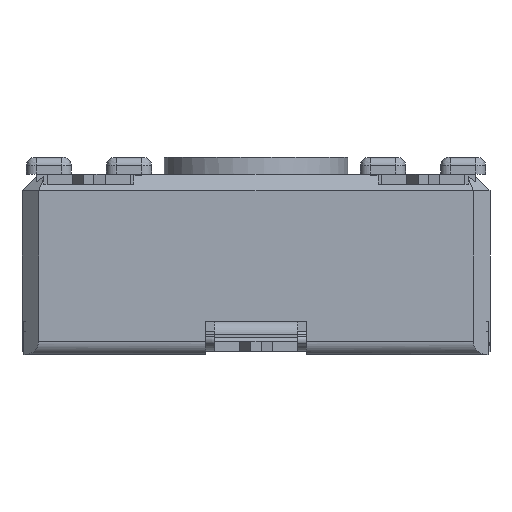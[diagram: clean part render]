
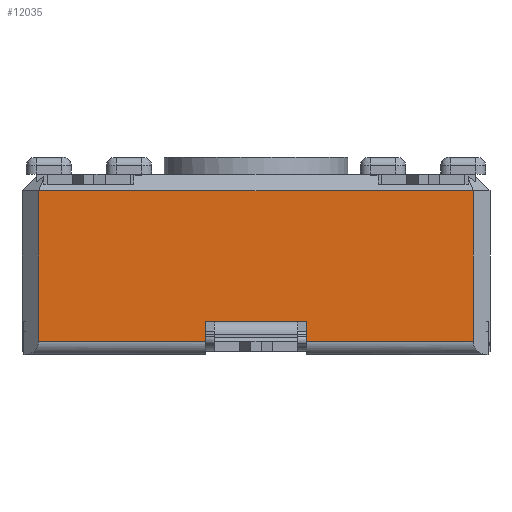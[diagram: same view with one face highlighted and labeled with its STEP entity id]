
A CAD part, front view. The second image highlights one B-rep face of the part: STEP entity #12035.
In plain terms, the highlighted planar face has unit normal (0, -1, 0).
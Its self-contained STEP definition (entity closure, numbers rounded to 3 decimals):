
#793=FACE_OUTER_BOUND('',#1399,.T.);
#1399=EDGE_LOOP('',(#10129,#10130,#10131,#10132,#10133,#10134,#10135,#10136,
#10137,#10138));
#1649=LINE('',#17045,#2904);
#1809=LINE('',#17422,#3064);
#2312=LINE('',#18833,#3567);
#2320=LINE('',#18850,#3575);
#2336=LINE('',#18890,#3591);
#2337=LINE('',#18895,#3592);
#2607=LINE('',#19669,#3862);
#2617=LINE('',#19687,#3872);
#2634=LINE('',#19731,#3889);
#2638=LINE('',#19737,#3893);
#2904=VECTOR('',#13684,10.);
#3064=VECTOR('',#14004,10.);
#3567=VECTOR('',#15177,10.);
#3575=VECTOR('',#15189,10.);
#3591=VECTOR('',#15225,10.);
#3592=VECTOR('',#15232,10.);
#3862=VECTOR('',#15946,10.);
#3872=VECTOR('',#15966,10.);
#3889=VECTOR('',#16007,10.);
#3893=VECTOR('',#16015,10.);
#4567=VERTEX_POINT('',#17043);
#4568=VERTEX_POINT('',#17044);
#4705=VERTEX_POINT('',#17421);
#5133=VERTEX_POINT('',#18830);
#5134=VERTEX_POINT('',#18832);
#5141=VERTEX_POINT('',#18848);
#5155=VERTEX_POINT('',#18889);
#5156=VERTEX_POINT('',#18893);
#5406=VERTEX_POINT('',#19668);
#5414=VERTEX_POINT('',#19729);
#5761=EDGE_CURVE('',#4567,#4568,#1649,.T.);
#5955=EDGE_CURVE('',#4705,#4567,#1809,.T.);
#6599=EDGE_CURVE('',#5133,#5134,#2312,.T.);
#6608=EDGE_CURVE('',#5133,#5141,#2320,.T.);
#6628=EDGE_CURVE('',#4705,#5155,#2336,.T.);
#6631=EDGE_CURVE('',#5155,#5156,#2337,.T.);
#7008=EDGE_CURVE('',#5406,#5134,#2607,.T.);
#7018=EDGE_CURVE('',#4568,#5406,#2617,.T.);
#7036=EDGE_CURVE('',#5414,#5141,#2634,.T.);
#7040=EDGE_CURVE('',#5156,#5414,#2638,.T.);
#10129=ORIENTED_EDGE('',*,*,#6599,.F.);
#10130=ORIENTED_EDGE('',*,*,#6608,.T.);
#10131=ORIENTED_EDGE('',*,*,#7036,.F.);
#10132=ORIENTED_EDGE('',*,*,#7040,.F.);
#10133=ORIENTED_EDGE('',*,*,#6631,.F.);
#10134=ORIENTED_EDGE('',*,*,#6628,.F.);
#10135=ORIENTED_EDGE('',*,*,#5955,.T.);
#10136=ORIENTED_EDGE('',*,*,#5761,.T.);
#10137=ORIENTED_EDGE('',*,*,#7018,.T.);
#10138=ORIENTED_EDGE('',*,*,#7008,.T.);
#10884=PLANE('',#13003);
#12035=ADVANCED_FACE('',(#793),#10884,.T.);
#13003=AXIS2_PLACEMENT_3D('',#19736,#16013,#16014);
#13684=DIRECTION('',(1.,0.,0.));
#14004=DIRECTION('',(1.,0.,0.));
#15177=DIRECTION('',(-1.,0.,0.));
#15189=DIRECTION('',(0.,0.,1.));
#15225=DIRECTION('',(0.,0.,-1.));
#15232=DIRECTION('',(-1.,0.,0.));
#15946=DIRECTION('',(0.,0.,-1.));
#15966=DIRECTION('',(1.,0.,0.));
#16007=DIRECTION('',(1.,0.,0.));
#16013=DIRECTION('center_axis',(0.,-1.,0.));
#16014=DIRECTION('ref_axis',(1.,0.,0.));
#16015=DIRECTION('',(0.,0.,1.));
#17043=CARTESIAN_POINT('',(-11.405,0.3,0.));
#17044=CARTESIAN_POINT('',(-8.905,0.3,0.));
#17045=CARTESIAN_POINT('',(-16.655,0.3,0.));
#17421=CARTESIAN_POINT('',(-11.655,0.3,0.));
#17422=CARTESIAN_POINT('',(-16.655,0.3,0.));
#18830=CARTESIAN_POINT('',(-3.655,0.3,-0.6));
#18832=CARTESIAN_POINT('',(-8.655,0.3,-0.6));
#18833=CARTESIAN_POINT('',(-11.325,0.3,-0.6));
#18848=CARTESIAN_POINT('',(-3.655,0.3,3.9));
#18850=CARTESIAN_POINT('',(-3.655,0.3,0.));
#18889=CARTESIAN_POINT('',(-11.655,0.3,-0.6));
#18890=CARTESIAN_POINT('',(-11.655,0.3,-0.3));
#18893=CARTESIAN_POINT('',(-16.655,0.3,-0.6));
#18895=CARTESIAN_POINT('',(-15.484,0.3,-0.6));
#19668=CARTESIAN_POINT('',(-8.655,0.3,0.));
#19669=CARTESIAN_POINT('',(-8.655,0.3,0.));
#19687=CARTESIAN_POINT('',(-16.655,0.3,0.));
#19729=CARTESIAN_POINT('',(-16.655,0.3,3.9));
#19731=CARTESIAN_POINT('',(-13.405,0.3,3.9));
#19736=CARTESIAN_POINT('Origin',(-16.655,0.3,0.));
#19737=CARTESIAN_POINT('',(-16.655,0.3,0.));
